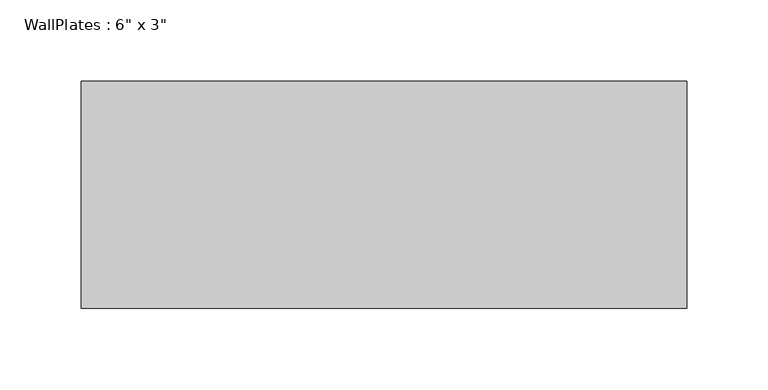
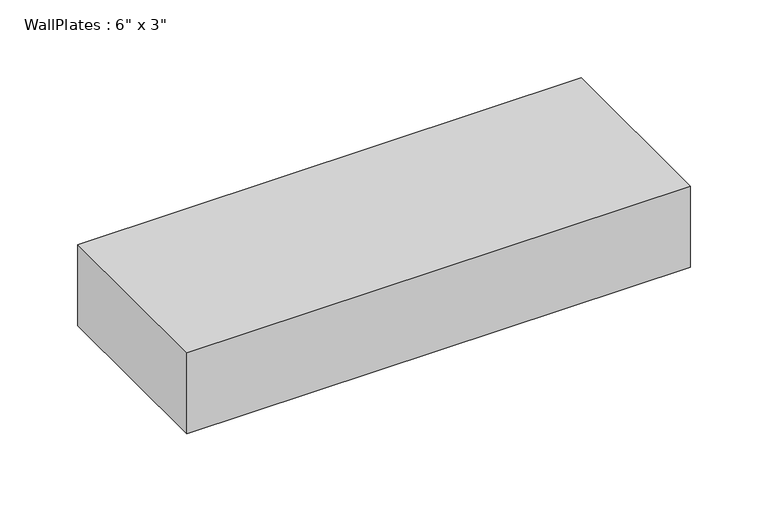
"""IFC4 building model written with IfcOpenShell, lengths in millimetres: beam geometry."""

from ifc_helpers import new_model, si_unit, frame, origin, place, context, project, spatial, polyline, outline, extrude, source, transform, mapped, element, save


def beam_ed930484(model_context):
    return source(origin(), model_context, "Body", "SweptSolid", [
        extrude(outline(polyline([(-186.2616667, -69.85), (-186.2616667, 69.85), (186.2616667, 69.85), (186.2616667, -69.85), (-186.2616667, -69.85)])), frame((0.0, 0.0, -31.75), z_axis=(0.0, 0.0, 1.0), x_axis=(1.0, 0.0, 0.0)), (0.0, 0.0, 1.0), 63.5),
    ])


if __name__ == "__main__":
    model = new_model("IFC4")
    model_context = context("Model", 3, world=origin())
    ifc_project = project(units=[si_unit("LENGTHUNIT", "METRE", prefix="MILLI")], contexts=[model_context])
    site = spatial("IfcSite", under=ifc_project)
    building = spatial("IfcBuilding", under=site)
    placement = place(None, origin())
    beam_shape = beam_ed930484(model_context)
    element("IfcBeam", 1, ObjectType="WallPlates : 6\" x 3\"", at=placement, inside=building, context=model_context, shape_type="MappedRepresentation", body=[
        mapped(beam_shape, transform((0.0, 0.0, 0.0), x_axis=(1.0, 0.0, 0.0), y_axis=(0.0, 1.0, 0.0), z_axis=(0.0, 0.0, 1.0))),
    ])
    save(model, "model.ifc")
